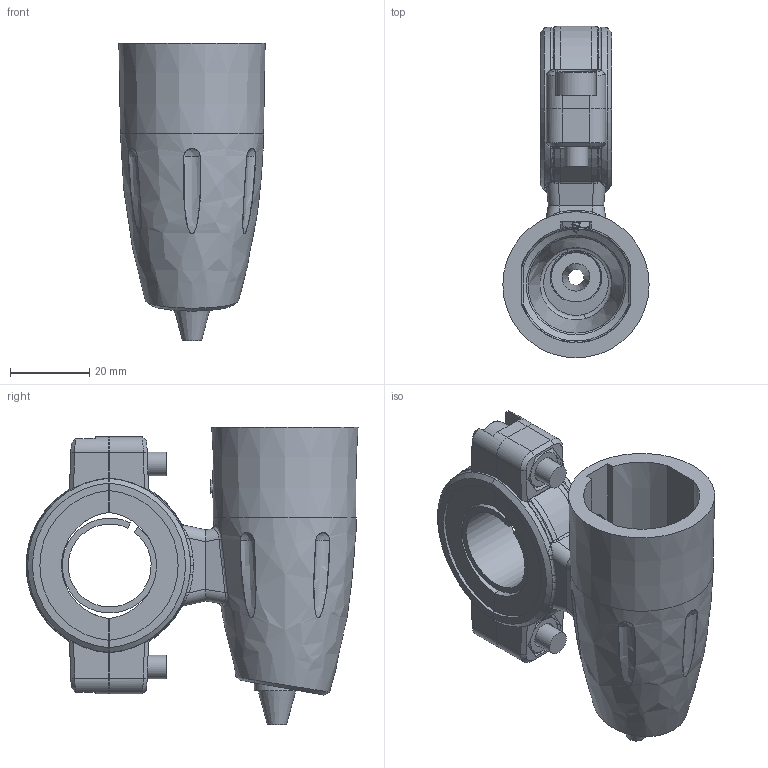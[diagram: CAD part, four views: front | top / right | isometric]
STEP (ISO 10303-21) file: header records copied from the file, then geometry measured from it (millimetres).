
FILE_DESCRIPTION(/* description */ (''),/* implementation_level */ '2;1');
FILE_NAME(/* name */ 'A9-CH2.stp',/* time_stamp */ '2025-02-17T12:59:13-08:00',/* author */ ('tylerl'),/* organization */ (''),/* preprocessor_version */ 'ST-DEVELOPER v20',/* originating_system */ 'Autodesk Inventor 2025',/* authorisation */ '');
FILE_SCHEMA (('AUTOMOTIVE_DESIGN { 1 0 10303 214 3 1 1 }'));
Length unit declared in the file: inch
Products named in the file (12): Assembly8; AS251_¨®¥R¨®¬[_20241028; ¨®¥R¥DÅé-2; §â¤â§¨¤W®y; NUT M4; ¤º¤»¨¤ M4x12 Flat; M6Á³¥À; M6¤º¤»¨¤Á³µ·; §â¤â§¨¤U®y; ¾ó½¦¹Ô°é(§éÅ
s); ap121SR; ¦Û§ðÁ³µ·M2.2
Assembly tree (13 placements, depth 3):
  Assembly8
    AS251_¨®¥R¨®¬[_20241028
      ¨®¥R¥DÅé-2
      §â¤â§¨¤W®y
      NUT M4
      ¤º¤»¨¤ M4x12 Flat
      M6Á³¥À  x2
      M6¤º¤»¨¤Á³µ·  x2
      §â¤â§¨¤U®y
      ¾ó½¦¹Ô°é(§éÅ
s)
      ap121SR
      ¦Û§ðÁ³µ·M2.2
Bounding box: 37 x 84 x 75.35 mm (x, y, z)
Volume: 44763.2 mm3; surface area: 30602.9 mm2
Topology: 12 solids, 12 shells, 554 faces, 1373 edges, 857 vertices
Faces by surface type: plane 250, bspline 114, cylinder 98, cone 60, torus 24, sphere 8
Full cylindrical faces by diameter (mm): 1.2 x1, 1.7 x4, 3.5 x1, 4 x2, 4.2 x1, 4.4 x1, 5.5 x2, 6 x2, 6.2 x4, 7.22 x1, 9.5 x1, 9.8 x1, 10 x2, 11.5 x1, 11.6 x1, 12.5 x1
Entity records: 27463 total; most frequent: CARTESIAN_POINT 15252, ORIENTED_EDGE 2592, DIRECTION 2219, EDGE_CURVE 1296, AXIS2_PLACEMENT_3D 819, VERTEX_POINT 818, LINE 581, VECTOR 581
